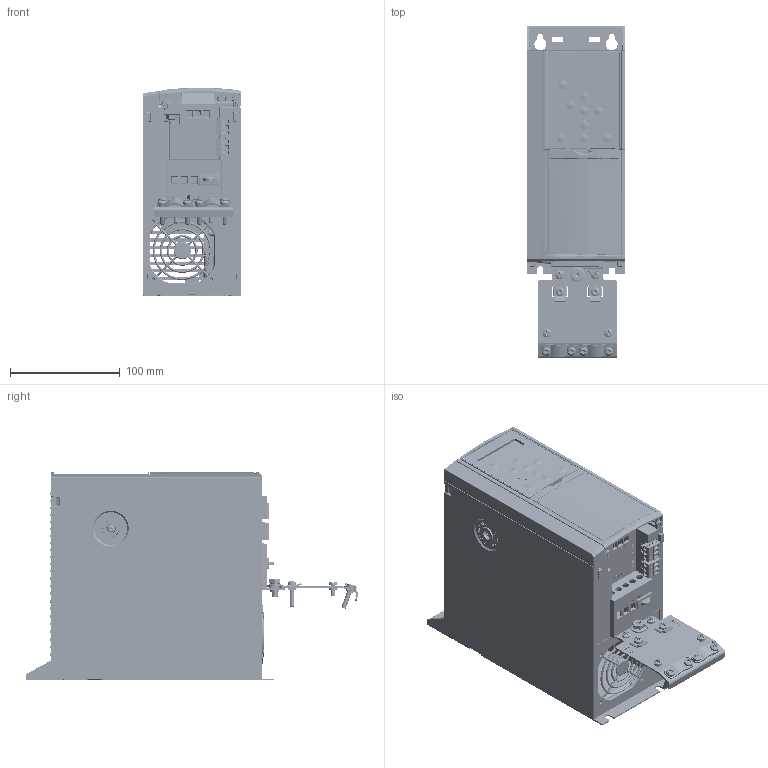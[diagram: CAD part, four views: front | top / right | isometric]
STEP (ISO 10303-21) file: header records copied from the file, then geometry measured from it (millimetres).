
FILE_DESCRIPTION((''),'2;1');
FILE_NAME('H2-IP20_ASM_ASM','2012-01-10T',('U255134'),('Danfoss Power Electronics'),'PRO/ENGINEER BY PARAMETRIC TECHNOLOGY CORPORATION, 2010370','PRO/ENGINEER BY PARAMETRIC TECHNOLOGY CORPORATION, 2010370','');
FILE_SCHEMA(('CONFIG_CONTROL_DESIGN', 'GEOMETRIC_VALIDATION_PROPERTIES_MIM'));
Products named in the file (33): 132B5733; 132B5733_CODE; 132B5733_ASM_ASM; 132B5734; 132B5734_CODE; 132B5734_ASM_ASM; H2-PCA_ASM_ASM; 132B4112; 132B3406; 132B3420_ASM_ASM; 132B3401; 132B3314; 132B3430_ASM_ASM; 132B4121; 132B4117; 132B7008; 132B7008_ASM_ASM; 132B4148_UMSH-8244JN-F; LCD_LIGHTGUIDE_ASM_ASM; 132B4142; 132B4296; 132B9105_ASM_ASM; 132B4133; 640F0307; M3X12; 132B4140; 132B3424; 132B3460; 681X0366; 195N2449; 132B3426_ASM_ASM; 681X0488; H2-IP20_ASM_ASM
Assembly tree (44 placements, depth 4):
  H2-IP20_ASM_ASM
    H2-PCA_ASM_ASM
      132B5733_ASM_ASM
        132B5733
        132B5733_CODE
      132B5734_ASM_ASM
        132B5734
        132B5734_CODE
    132B4112
    132B3420_ASM_ASM
      132B3406
    132B3430_ASM_ASM
      132B3401
      132B3314  x2
    132B4121
    132B4117
    132B9105_ASM_ASM
      132B7008_ASM_ASM
        132B7008
      LCD_LIGHTGUIDE_ASM_ASM
        132B4148_UMSH-8244JN-F
      132B4142
      132B4296
    132B4133
    640F0307  x2
    M3X12
    132B4140
    132B3426_ASM_ASM
      132B3424
      132B3460  x2
      681X0366  x6
      195N2449  x2
    681X0488  x4
Bounding box: 90 x 303.05 x 190.31 mm (x, y, z)
Volume: 465198.1 mm3; surface area: 479512.1 mm2
Topology: 35 solids, 78 shells, 17345 faces, 48338 edges, 31428 vertices
Faces by surface type: plane 12692, cylinder 2924, bspline 659, torus 377, sphere 347, cone 346
Entity records: 698882 total; most frequent: CARTESIAN_POINT 185326, ORIENTED_EDGE 92729, DIRECTION 76062, EDGE_CURVE 46682, VERTEX_POINT 30482, VECTOR 30436, LINE 30436, PRESENTATION_STYLE_ASSIGNMENT 24087
